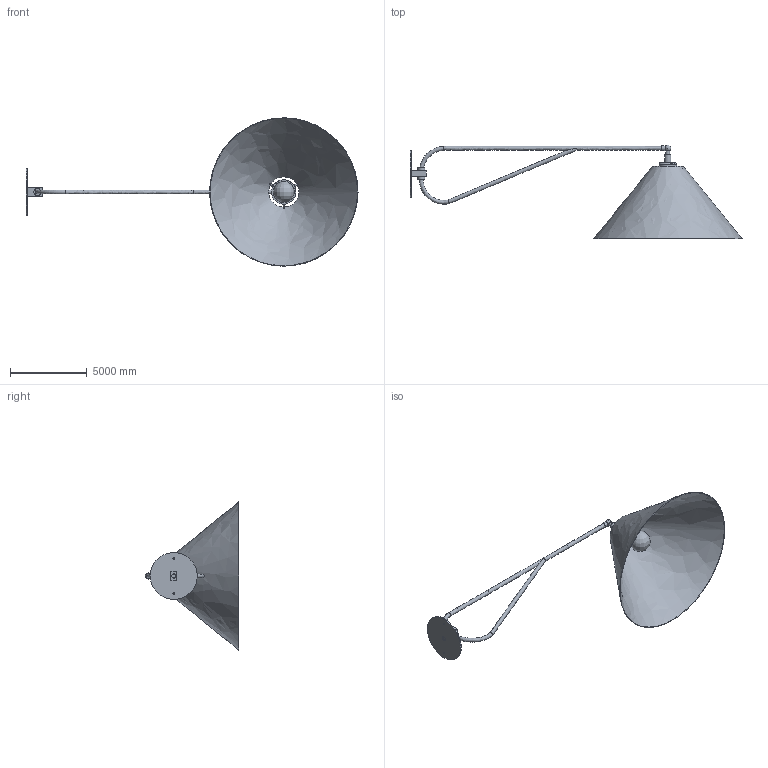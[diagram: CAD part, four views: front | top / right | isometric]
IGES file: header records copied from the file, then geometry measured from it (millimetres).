
Global section: file name: Dionis Wall Lamp; native system: AutoCAD 2022 - 简体中文 (Simplified Chinese),62HAuto; preprocessor: desk Translation Framework DWG producer (atf_dwg_producer); organization: unknown; date: 20251014.084802; units: inch
Bounding box: 21591.19 x 6090.15 x 9651.65 mm (x, y, z)
Volume: 7561998245.8 mm3; surface area: 305287803.9 mm2
Topology: 11 solids, 11 shells, 93 faces, 223 edges, 158 vertices
Faces by surface type: bspline 93
